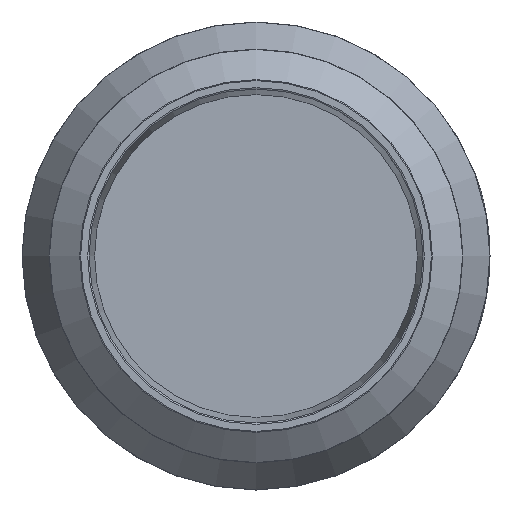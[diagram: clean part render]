
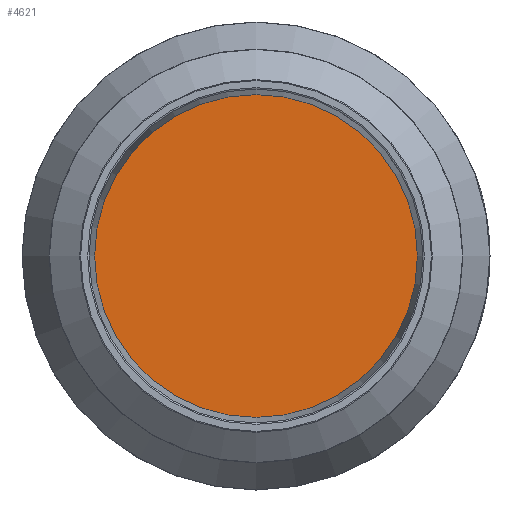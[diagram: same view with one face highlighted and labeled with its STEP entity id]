
A CAD part, left-side view. The second image highlights one B-rep face of the part: STEP entity #4621.
In plain terms, the highlighted planar face has unit normal (-1, 0, 0).
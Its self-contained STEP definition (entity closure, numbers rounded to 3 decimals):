
#763=ORIENTED_EDGE('',*,*,#1724,.T.);
#1724=EDGE_CURVE('',#2205,#2205,#2533,.T.);
#2205=VERTEX_POINT('',#5846);
#2533=CIRCLE('',#4828,28.47);
#2636=EDGE_LOOP('',(#763));
#2879=FACE_BOUND('',#2636,.T.);
#3119=PLANE('',#4829);
#4621=ADVANCED_FACE('',(#2879),#3119,.F.);
#4828=AXIS2_PLACEMENT_3D('',#5845,#5083,#5084);
#4829=AXIS2_PLACEMENT_3D('',#5847,#5085,#5086);
#5083=DIRECTION('',(-1.,0.,0.));
#5084=DIRECTION('',(0.,0.,1.));
#5085=DIRECTION('',(1.,0.,0.));
#5086=DIRECTION('',(0.,0.,-1.));
#5845=CARTESIAN_POINT('',(6.35,0.,0.));
#5846=CARTESIAN_POINT('',(6.35,0.,28.47));
#5847=CARTESIAN_POINT('',(6.35,0.,0.));
